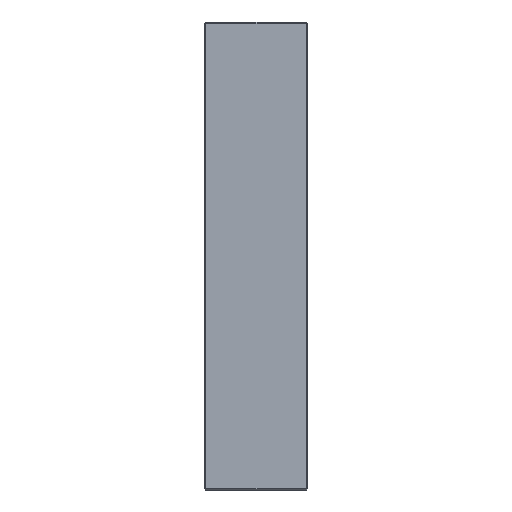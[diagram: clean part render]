
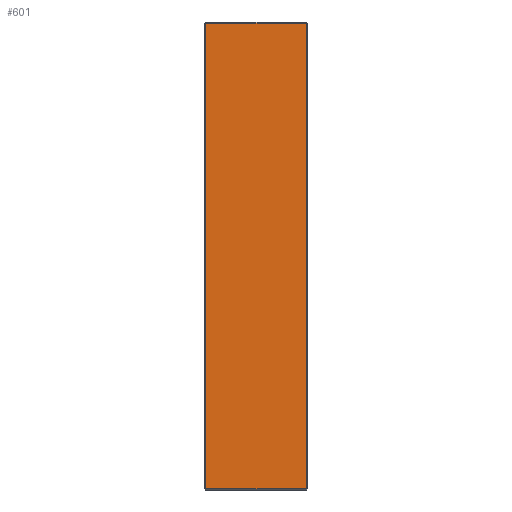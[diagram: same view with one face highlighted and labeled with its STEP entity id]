
A CAD part, left-side view. The second image highlights one B-rep face of the part: STEP entity #601.
In plain terms, the highlighted planar face has unit normal (-1, 0, 0).
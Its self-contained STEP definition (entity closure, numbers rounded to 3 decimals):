
#27 = CARTESIAN_POINT ( 'NONE',  ( -173., 1., -172. ) ) ;
#56 = LINE ( 'NONE', #675, #1262 ) ;
#68 = VECTOR ( 'NONE', #1144, 1000. ) ;
#148 = CARTESIAN_POINT ( 'NONE',  ( -173., 75., 173. ) ) ;
#190 = VERTEX_POINT ( 'NONE', #27 ) ;
#287 = DIRECTION ( 'NONE',  ( 0., 0., -1. ) ) ;
#407 = VERTEX_POINT ( 'NONE', #1690 ) ;
#445 = LINE ( 'NONE', #148, #928 ) ;
#525 = DIRECTION ( 'NONE',  ( 0., 0., 1. ) ) ;
#569 = CARTESIAN_POINT ( 'NONE',  ( -173., 76., 172. ) ) ;
#571 = EDGE_CURVE ( 'NONE', #1310, #407, #445, .T. ) ;
#601 = ADVANCED_FACE ( 'NONE', ( #1665 ), #1246, .F. ) ;
#636 = VECTOR ( 'NONE', #525, 1000. ) ;
#665 = ORIENTED_EDGE ( 'NONE', *, *, #571, .T. ) ;
#675 = CARTESIAN_POINT ( 'NONE',  ( -173., 76., -172. ) ) ;
#753 = LINE ( 'NONE', #569, #68 ) ;
#806 = VERTEX_POINT ( 'NONE', #1873 ) ;
#858 = ORIENTED_EDGE ( 'NONE', *, *, #929, .T. ) ;
#860 = EDGE_LOOP ( 'NONE', ( #963, #665, #869, #858 ) ) ;
#865 = CARTESIAN_POINT ( 'NONE',  ( -173., 1., 173. ) ) ;
#869 = ORIENTED_EDGE ( 'NONE', *, *, #1081, .T. ) ;
#928 = VECTOR ( 'NONE', #287, 1000. ) ;
#929 = EDGE_CURVE ( 'NONE', #190, #806, #1607, .T. ) ;
#963 = ORIENTED_EDGE ( 'NONE', *, *, #1277, .T. ) ;
#971 = DIRECTION ( 'NONE',  ( 0., -1., 0. ) ) ;
#1080 = CARTESIAN_POINT ( 'NONE',  ( -173., 76., 173. ) ) ;
#1081 = EDGE_CURVE ( 'NONE', #407, #190, #56, .T. ) ;
#1144 = DIRECTION ( 'NONE',  ( 0., 1., 0. ) ) ;
#1241 = AXIS2_PLACEMENT_3D ( 'NONE', #1080, #1323, #1345 ) ;
#1246 = PLANE ( 'NONE',  #1241 ) ;
#1262 = VECTOR ( 'NONE', #971, 1000. ) ;
#1277 = EDGE_CURVE ( 'NONE', #806, #1310, #753, .T. ) ;
#1310 = VERTEX_POINT ( 'NONE', #1840 ) ;
#1323 = DIRECTION ( 'NONE',  ( 1., 0., 0. ) ) ;
#1345 = DIRECTION ( 'NONE',  ( 0., 0., -1. ) ) ;
#1607 = LINE ( 'NONE', #865, #636 ) ;
#1665 = FACE_OUTER_BOUND ( 'NONE', #860, .T. ) ;
#1690 = CARTESIAN_POINT ( 'NONE',  ( -173., 75., -172. ) ) ;
#1840 = CARTESIAN_POINT ( 'NONE',  ( -173., 75., 172. ) ) ;
#1873 = CARTESIAN_POINT ( 'NONE',  ( -173., 1., 172. ) ) ;
